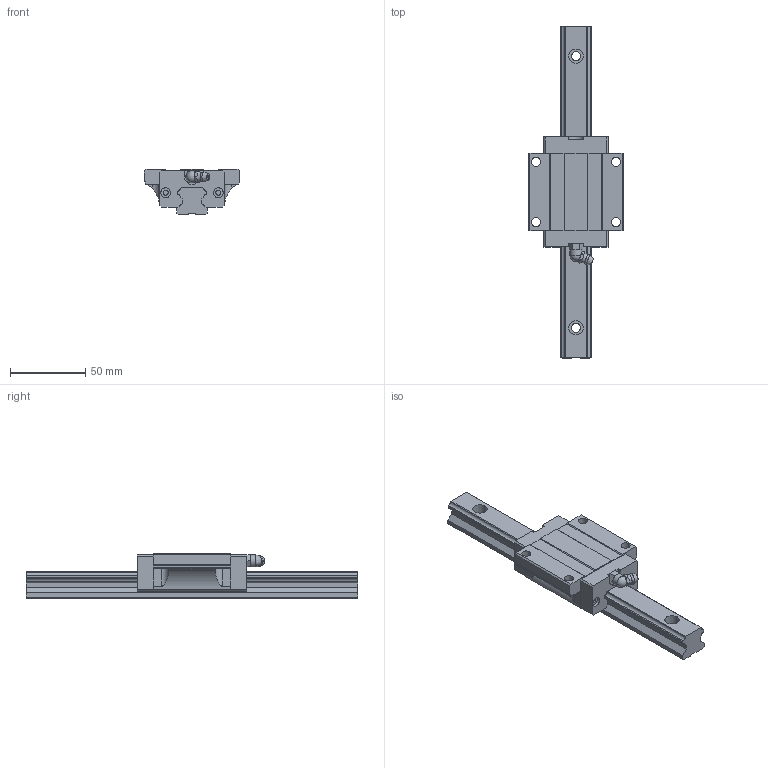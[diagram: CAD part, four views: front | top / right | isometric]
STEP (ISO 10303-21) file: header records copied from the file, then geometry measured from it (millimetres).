
FILE_DESCRIPTION(/* description */ (''),/* implementation_level */ '2;1');
FILE_NAME(/* name */ 'MSA20E',/* time_stamp */ '2003-12-26T09:04:17+08:00',/* author */ (''),/* organization */ (''),/* preprocessor_version */ 'ST-DEVELOPER v9',/* originating_system */ '',/* authorisation */ '');
FILE_SCHEMA (('CONFIG_CONTROL_DESIGN'));
Length unit declared in the file: millimetre
Products named in the file (1): zirc19C8h7oc
Bounding box: 63 x 220 x 30 mm (x, y, z)
Volume: 135366.6 mm3; surface area: 36720.6 mm2
Topology: 3 solids, 3 shells, 194 faces, 518 edges, 338 vertices
Faces by surface type: plane 142, cylinder 41, torus 7, sphere 2, cone 1, bspline 1
Full cylindrical faces by diameter (mm): 3.25 x4, 6 x8, 6.5 x4, 8 x1, 9.5 x4
Entity records: 6108 total; most frequent: CARTESIAN_POINT 1218, ORIENTED_EDGE 976, DIRECTION 975, EDGE_CURVE 488, LINE 345, VECTOR 345, VERTEX_POINT 334, AXIS2_PLACEMENT_3D 315
